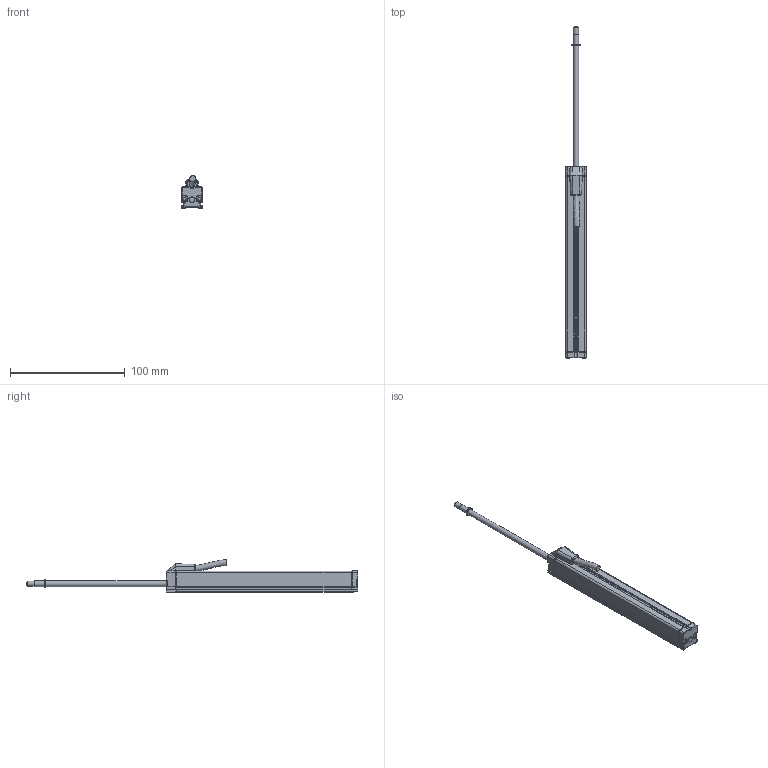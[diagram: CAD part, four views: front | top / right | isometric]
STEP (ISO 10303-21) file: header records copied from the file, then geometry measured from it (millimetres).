
FILE_DESCRIPTION(/* description */ (''),/* implementation_level */ '2;1');
FILE_NAME(/* name */ 'KTR3-100.stp',/* time_stamp */ '2021-10-23T08:26:00+08:00',/* author */ (''),/* organization */ (''),/* preprocessor_version */ 'ST-DEVELOPER v16',/* originating_system */ 'SIEMENS PLM Software NX 10.0',/* authorisation */ '');
FILE_SCHEMA (('AUTOMOTIVE_DESIGN { 1 0 10303 214 3 1 1 1 }'));
Length unit declared in the file: millimetre
Products named in the file (1): Admi77E81920awny
Bounding box: 18 x 288.98 x 28.3 mm (x, y, z)
Volume: 33761.9 mm3; surface area: 31997.8 mm2
Topology: 8 solids, 9 shells, 554 faces, 1494 edges, 951 vertices
Faces by surface type: plane 279, cylinder 184, bspline 43, cone 39, sphere 6, torus 3
Full cylindrical faces by diameter (mm): 2 x1, 2.4 x1, 3.2 x4, 4.5 x1, 4.6 x1, 5 x4, 5.5 x1
Entity records: 18220 total; most frequent: CARTESIAN_POINT 4423, ORIENTED_EDGE 2894, DIRECTION 2821, EDGE_CURVE 1447, AXIS2_PLACEMENT_3D 973, VERTEX_POINT 939, LINE 875, VECTOR 875
